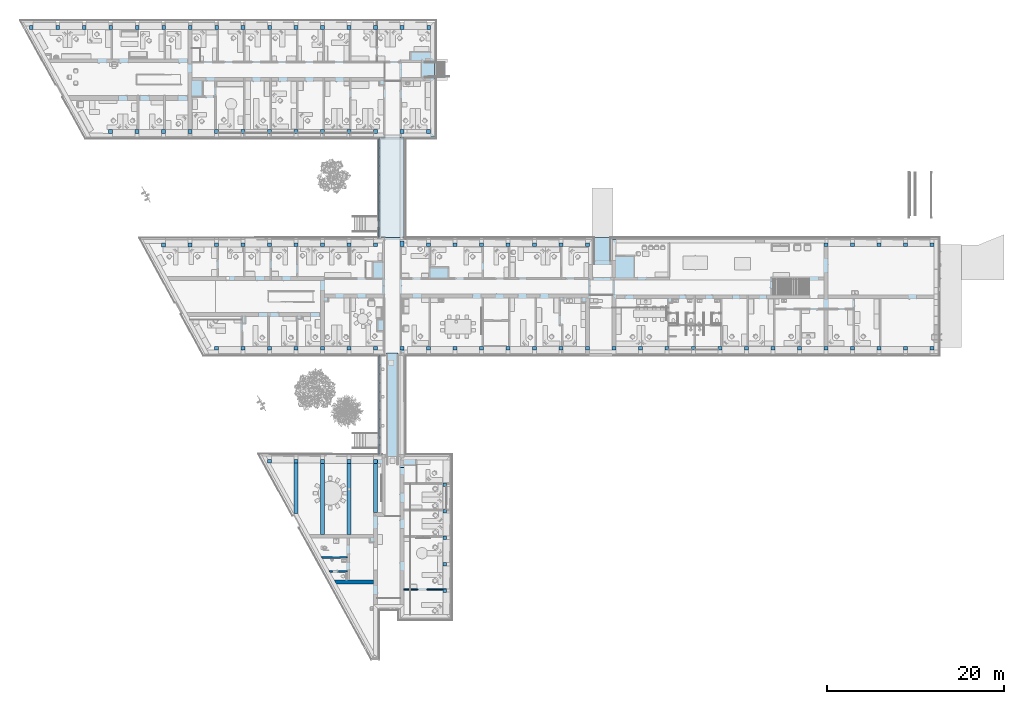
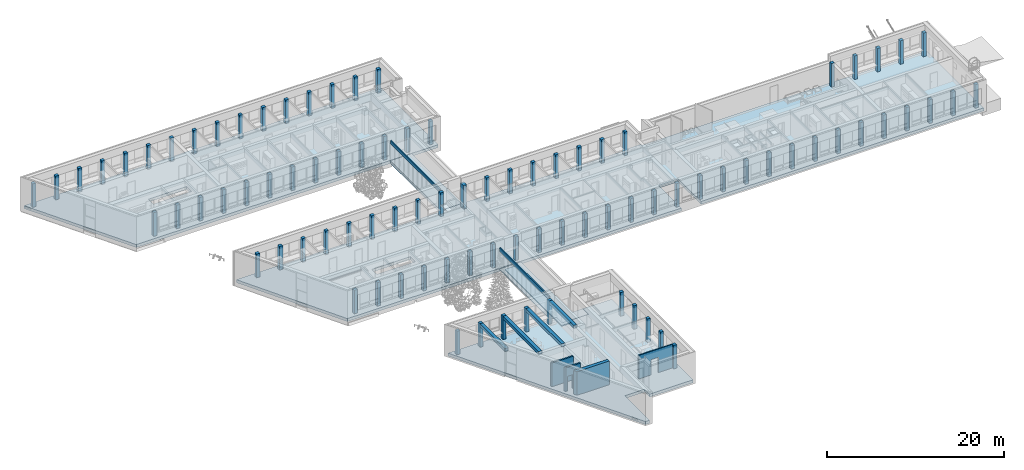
# One storey, part 1 of 194: 91 members, 6 slabs, 4 beams, 4 walls, 4 openings.
"""IFC2X3 building model written with IfcOpenShell, lengths in millimetres."""

from ifc_helpers import new_model, entity, si_unit, converted_unit, derived_unit, money_unit, direction, frame, frame_2d, origin_with_axes, origin_2d_with_axis, place, context, subcontext, project, spatial, polyline, rectangle, outline, extrude, clip, halfspace, material, layer, layer_set, layer_usage, type_object, element, save


model = new_model("IFC2X3")

# Units and contexts
model_context = context("Model", 3, precision=1e-05, world=origin_with_axes(), true_north=direction((0.0, 1.0)))
body_context = subcontext(model_context, "Body", "Model", "MODEL_VIEW")
ifc_project = project(units=[si_unit("LENGTHUNIT", "METRE", prefix="MILLI"), si_unit("AREAUNIT", "SQUARE_METRE"), si_unit("VOLUMEUNIT", "CUBIC_METRE"), converted_unit("PLANEANGLEUNIT", "DEGREE", entity("IfcPlaneAngleMeasure", 0.0174532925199), si_unit("PLANEANGLEUNIT", "RADIAN"), dimensions=[0, 0, 0, 0, 0, 0, 0]), si_unit("SOLIDANGLEUNIT", "STERADIAN"), money_unit("EUR"), converted_unit("TIMEUNIT", "Year", entity("IfcTimeMeasure", 31556926.0), si_unit("TIMEUNIT", "SECOND"), dimensions=[0, 0, 1, 0, 0, 0, 0]), si_unit("MASSUNIT", "GRAM", prefix="KILO"), si_unit("THERMODYNAMICTEMPERATUREUNIT", "DEGREE_CELSIUS"), si_unit("LUMINOUSINTENSITYUNIT", "LUMEN"), si_unit("ENERGYUNIT", "JOULE", prefix="MEGA"), derived_unit("THERMALCONDUCTANCEUNIT", [(si_unit("POWERUNIT", "WATT"), 1), (si_unit("LENGTHUNIT", "METRE"), -1), (si_unit("THERMODYNAMICTEMPERATUREUNIT", "KELVIN"), -1)]), derived_unit("SPECIFICHEATCAPACITYUNIT", [(si_unit("ENERGYUNIT", "JOULE"), 1), (si_unit("MASSUNIT", "GRAM", prefix="KILO"), -1), (si_unit("THERMODYNAMICTEMPERATUREUNIT", "KELVIN"), -1)]), derived_unit("MASSDENSITYUNIT", [(si_unit("MASSUNIT", "GRAM", prefix="KILO"), 1), (si_unit("VOLUMEUNIT", "CUBIC_METRE"), -1)])], contexts=[model_context])

# Site, building, storey
site_placement = place(None, origin_with_axes())
site = spatial("IfcSite", under=ifc_project, at=site_placement, Name="Site", CompositionType="ELEMENT")
building_placement = place(site_placement, origin_with_axes())
building = spatial("IfcBuilding", under=site, at=building_placement, Name="Building", CompositionType="ELEMENT")
storey_placement = place(building_placement, frame((0.0, 0.0, 3000.0), z_axis=(0.0, 0.0, 1.0), x_axis=(1.0, 0.0, 0.0)))
storey = spatial("IfcBuildingStorey", under=building, at=storey_placement, Name="2 KORRUS", CompositionType="ELEMENT", Elevation=3000.0)

# Members
ifc_material_1 = material(Name="Kivi - Ol.Olev Konstruktsioon")
member_type_1 = type_object("IfcMemberType", Name="ol.ol postid", PredefinedType="NOTDEFINED")
member_1_placement = place(storey_placement, frame((12951.7903616, 71296.7330816, 0.0), z_axis=(0.0, 0.0, 1.0), x_axis=(1.0, 0.0, 0.0)))
element("IfcMember", 1, at=member_1_placement, inside=storey, type_object=member_type_1, material=ifc_material_1, Name="Kivi - Ol.Olev Konstruktsioon", context=body_context, shape_type="SweptSolid", body=[
    extrude(rectangle(XDim=420.0, YDim=420.0, at=origin_2d_with_axis()), origin_with_axes(), (0.0, 0.0, 1.0), 3250.0),
])
member_2_placement = place(storey_placement, frame((39944.3292711, 46796.4699647, 0.0), z_axis=(0.0, 0.0, 1.0), x_axis=(1.0, 0.0, 0.0)))
element("IfcMember", 2, at=member_2_placement, inside=storey, type_object=member_type_1, material=ifc_material_1, Name="Kivi - Ol.Olev Konstruktsioon", context=body_context, shape_type="SweptSolid", body=[
    extrude(rectangle(XDim=420.0, YDim=650.0, at=origin_2d_with_axis()), origin_with_axes(), (0.0, 0.0, 1.0), 3250.0),
])
for number, where, z_axis, x_axis in (
    (3, (44776.9850381, 19530.1440087, 0.0), (0.0, 0.0, 1.0), (1.0, 0.0, 0.0)),
    (4, (44775.3183992, 16530.1444716, 0.0), (0.0, 0.0, 1.0), (1.0, 0.0, 0.0)),
    (5, (44770.3184828, 7530.14586044, 0.0), (0.0, 0.0, 1.0), (1.0, 0.0, 0.0)),
    (6, (15944.3038311, 59525.1231357, 0.0), (0.0, 0.0, 1.0), (1.0, 0.0, 0.0)),
    (7, (44773.6517604, 13530.1449345, 0.0), (0.0, 0.0, 1.0), (1.0, 0.0, 0.0)),
    (8, (44771.9851216, 10530.1453975, 0.0), (0.0, 0.0, 1.0), (1.0, 0.0, 0.0)),
    (9, (39944.3292711, 34971.6242698, 0.0), (0.0, 0.0, 1.0), (1.0, 0.0, 0.0)),
    (10, (87949.0655842, 46681.7424563, 0.0), (0.0, 0.0, 1.0), (1.0, 0.0, 0.0)),
    (11, (-2049.17894992, 71295.3928576, 0.0), (0.0, 0.0, 1.0), (1.0, 0.0, 0.0)),
    (12, (950.472883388, 71295.4138396, 0.0), (0.0, 0.0, 1.0), (1.0, 0.0, 0.0)),
    (13, (3950.5667174, 71297.439843, 0.0), (0.0, 0.0, 1.0), (1.0, 0.0, 0.0)),
    (14, (6952.1108763, 71297.439843, 0.0), (0.0, 0.0, 1.0), (1.0, 0.0, 0.0)),
    (15, (9951.94827156, 71299.439721, 0.0), (0.0, 0.0, 1.0), (1.0, 0.0, 0.0)),
    (16, (15951.8667269, 71298.3482713, 0.0), (0.0, 0.0, 1.0), (1.0, 0.0, 0.0)),
    (17, (18951.6522749, 71298.8316168, 0.0), (0.0, 0.0, 1.0), (1.0, 0.0, 0.0)),
    (18, (21950.5170575, 71298.2638514, 0.0), (0.0, 0.0, 1.0), (1.0, 0.0, 0.0)),
    (19, (24951.646881, 71298.9448321, 0.0), (0.0, 0.0, 1.0), (1.0, 0.0, 0.0)),
    (20, (27950.1478384, 71302.3731882, 0.0), (0.0, 0.0, 1.0), (1.0, 0.0, 0.0)),
    (21, (30950.1503027, 71302.3731882, 0.0), (0.0, 0.0, 1.0), (1.0, 0.0, 0.0)),
    (22, (33950.0692407, 71302.3731882, 0.0), (0.0, 0.0, 1.0), (1.0, 0.0, 0.0)),
    (23, (36949.9880696, 71302.3731882, 0.0), (0.0, 0.0, 1.0), (1.0, 0.0, 0.0)),
    (24, (39950.7614186, 71302.3733161, 0.0), (0.0, 0.0, 1.0), (1.0, 0.0, 0.0)),
    (25, (42953.1732824, 71302.373319, 0.0), (0.0, 0.0, 1.0), (1.0, 0.0, 0.0)),
    (26, (6943.96611202, 59525.1231357, 0.0), (0.0, 0.0, 1.0), (1.0, 0.0, 0.0)),
    (27, (9944.30400259, 59525.1231357, 0.0), (0.0, 0.0, 1.0), (1.0, 0.0, 0.0)),
    (28, (12944.6418932, 59525.1231357, 0.0), (0.0, 0.0, 1.0), (1.0, 0.0, 0.0)),
    (29, (18944.3034197, 59526.6941374, 0.0), (0.0, 0.0, 1.0), (1.0, 0.0, 0.0)),
    (30, (21944.3030084, 59528.2651392, 0.0), (0.0, 0.0, 1.0), (1.0, 0.0, 0.0)),
    (31, (24944.302597, 59527.6812213, 0.0), (0.0, 0.0, 1.0), (1.0, 0.0, 0.0)),
    (32, (27944.3021857, 59528.1046502, 0.0), (0.0, 0.0, 1.0), (1.0, 0.0, 0.0)),
    (33, (30944.3017744, 59528.468799, 0.0), (0.0, 0.0, 1.0), (1.0, 0.0, 0.0)),
    (34, (36944.3009517, 59529.3156565, 0.0), (0.0, 0.0, 1.0), (1.0, 0.0, 0.0)),
    (35, (39943.2475145, 59529.3156565, 0.0), (0.0, 0.0, 1.0), (1.0, 0.0, 0.0)),
    (36, (42944.3292711, 59529.3156565, 0.0), (0.0, 0.0, 1.0), (1.0, 0.0, 0.0)),
    (37, (36944.3010178, 46699.9747517, 0.0), (0.0, 0.0, 1.0), (1.0, 0.0, 0.0)),
    (38, (33943.7929122, 46695.1601266, 0.0), (0.0, 0.0, 1.0), (1.0, 0.0, 0.0)),
    (39, (30943.8006358, 46690.3463291, 0.0), (0.0, 0.0, 1.0), (1.0, 0.0, 0.0)),
    (40, (27944.3293372, 46685.5347581, 0.0), (0.0, 0.0, 1.0), (1.0, 0.0, 0.0)),
    (41, (24944.3293372, 46682.325893, 0.0), (0.0, 0.0, 1.0), (1.0, 0.0, 0.0)),
    (42, (21944.3293372, 46682.325893, 0.0), (0.0, 0.0, 1.0), (1.0, 0.0, 0.0)),
    (43, (18944.3293372, 46682.325893, 0.0), (0.0, 0.0, 1.0), (1.0, 0.0, 0.0)),
    (44, (15944.3292711, 46662.325893, 0.0), (0.0, 0.0, 1.0), (1.0, 0.0, 0.0)),
    (45, (12944.3292711, 46662.325893, 0.0), (0.0, 0.0, 1.0), (1.0, 0.0, 0.0)),
    (46, (42944.3292711, 46681.4699647, 0.0), (0.0, 0.0, 1.0), (1.0, 0.0, 0.0)),
    (47, (45944.3292711, 46681.4699647, 0.0), (0.0, 0.0, 1.0), (1.0, 0.0, 0.0)),
    (48, (48944.3292711, 46681.4699647, 0.0), (0.0, 0.0, 1.0), (1.0, 0.0, 0.0)),
    (49, (51944.3292711, 46681.4699647, 0.0), (0.0, 0.0, 1.0), (1.0, 0.0, 0.0)),
    (50, (54944.3292711, 46681.4699647, 0.0), (0.0, 0.0, 1.0), (1.0, 0.0, 0.0)),
    (51, (57944.3292711, 46681.4699647, 0.0), (0.0, 0.0, 1.0), (1.0, 0.0, 0.0)),
    (52, (60944.3292711, 46681.4699647, 0.0), (0.0, 0.0, 1.0), (1.0, 0.0, 0.0)),
    (53, (90947.3527847, 46681.7424563, 0.0), (0.0, 0.0, 1.0), (1.0, 0.0, 0.0)),
    (54, (93947.3527847, 46681.7424563, 0.0), (0.0, 0.0, 1.0), (1.0, 0.0, 0.0)),
    (55, (96947.3527847, 46681.7424563, 0.0), (0.0, 0.0, 1.0), (1.0, 0.0, 0.0)),
    (56, (99947.3527847, 46681.7424563, 0.0), (0.0, 0.0, 1.0), (1.0, 0.0, 0.0)),
    (57, (42945.1743177, 34971.6242698, 0.0), (0.0, 0.0, 1.0), (1.0, 0.0, 0.0)),
    (58, (45945.1743177, 34971.6242698, 0.0), (0.0, 0.0, 1.0), (1.0, 0.0, 0.0)),
    (59, (48945.1743177, 34971.6242698, 0.0), (0.0, 0.0, 1.0), (1.0, 0.0, 0.0)),
    (60, (51945.1743177, 34971.6242698, 0.0), (0.0, 0.0, 1.0), (1.0, 0.0, 0.0)),
    (61, (54945.1743177, 34971.6242698, 0.0), (0.0, 0.0, 1.0), (1.0, 0.0, 0.0)),
    (62, (57945.1743177, 34971.6242698, 0.0), (0.0, 0.0, 1.0), (1.0, 0.0, 0.0)),
    (63, (60945.1743177, 34971.6242698, 0.0), (0.0, 0.0, 1.0), (1.0, 0.0, 0.0)),
    (64, (63947.3527847, 34971.6242698, 0.0), (0.0, 0.0, 1.0), (1.0, 0.0, 0.0)),
    (65, (66947.3527847, 34971.6242698, 0.0), (0.0, 0.0, 1.0), (1.0, 0.0, 0.0)),
    (66, (69947.3527847, 34971.6242698, 0.0), (0.0, 0.0, 1.0), (1.0, 0.0, 0.0)),
    (67, (72947.3527847, 34971.6242698, 0.0), (0.0, 0.0, 1.0), (1.0, 0.0, 0.0)),
    (68, (75947.3527847, 34971.6242698, 0.0), (0.0, 0.0, 1.0), (1.0, 0.0, 0.0)),
    (69, (78947.3527847, 34971.6242698, 0.0), (0.0, 0.0, 1.0), (1.0, 0.0, 0.0)),
    (70, (81947.3527847, 34971.6242698, 0.0), (0.0, 0.0, 1.0), (1.0, 0.0, 0.0)),
    (71, (84947.3527847, 34971.6242698, 0.0), (0.0, 0.0, 1.0), (1.0, 0.0, 0.0)),
    (72, (87947.3527847, 34971.6242698, 0.0), (0.0, 0.0, 1.0), (1.0, 0.0, 0.0)),
    (73, (90947.3527847, 34971.6242698, 0.0), (0.0, 0.0, 1.0), (1.0, 0.0, 0.0)),
    (74, (93947.3527847, 34971.6242698, 0.0), (0.0, 0.0, 1.0), (1.0, 0.0, 0.0)),
    (75, (96947.3527847, 34971.6242698, 0.0), (0.0, 0.0, 1.0), (1.0, 0.0, 0.0)),
    (76, (99947.3527847, 34971.6242698, 0.0), (0.0, 0.0, 1.0), (1.0, 0.0, 0.0)),
    (77, (24944.3752691, 22185.0168988, 0.0), (0.0, 0.0, 1.0), (1.0, 0.0, 0.0)),
    (78, (33945.1743177, 34971.6242698, 0.0), (0.0, 0.0, 1.0), (1.0, 0.0, 0.0)),
    (79, (30945.1743177, 34971.6242698, 0.0), (0.0, 0.0, 1.0), (1.0, 0.0, 0.0)),
    (80, (27945.1743177, 34971.6242698, 0.0), (0.0, 0.0, 1.0), (1.0, 0.0, 0.0)),
    (81, (24945.1743177, 34971.6242698, 0.0), (0.0, 0.0, 1.0), (1.0, 0.0, 0.0)),
    (82, (21945.1743177, 34971.6242698, 0.0), (0.0, 0.0, 1.0), (1.0, 0.0, 0.0)),
    (83, (18945.1743177, 34971.6242698, 0.0), (0.0, 0.0, 1.0), (1.0, 0.0, 0.0)),
    (84, (36944.3292711, 34971.6242698, 0.0), (0.0, 0.0, 1.0), (1.0, 0.0, 0.0)),
    (85, (36944.3292711, 22151.7911393, 0.0), (0.0, 0.0, 1.0), (1.0, 0.0, 0.0)),
    (86, (33944.3407706, 22160.0975792, 0.0), (0.0, 0.0, 1.0), (1.0, 0.0, 0.0)),
    (87, (30944.3522701, 22168.404019, 0.0), (0.0, 0.0, 1.0), (1.0, 0.0, 0.0)),
    (88, (27944.3637696, 22176.7104589, 0.0), (0.0, 0.0, 1.0), (1.0, 0.0, 0.0)),
    (89, (33944.5581523, 59529.3156565, 0.0), (0.0, 0.0, 1.0), (1.0, 0.0, 0.0)),
):
    element("IfcMember", number, at=place(storey_placement, frame(where, z_axis=z_axis, x_axis=x_axis)), inside=storey, type_object=member_type_1, material=ifc_material_1, Name="Kivi - Ol.Olev Konstruktsioon", context=body_context, shape_type="SweptSolid", body=[
        extrude(rectangle(XDim=420.0, YDim=420.0, at=origin_2d_with_axis()), origin_with_axes(), (0.0, 0.0, 1.0), 3250.0),
    ])
ifc_material_2 = material(Name="Kivi -Ol.Olev Konstruktsioon")
member_type_2 = type_object("IfcMemberType", Name="VS4", PredefinedType="NOTDEFINED")
member_3_placement = place(storey_placement, frame((37327.359024, 22991.226449, 2504.80724646), z_axis=(0.0, 0.0, 1.0), x_axis=(0.0, 1.0, 0.0)))
element("IfcMember", 90, at=member_3_placement, inside=storey, type_object=member_type_2, material=ifc_material_2, Name="ol.olev ss 150", context=body_context, shape_type="SweptSolid", body=[
    extrude(outline(polyline([(0.0, -150.0), (11179.2226508, -150.0), (11179.2226508, 0.0), (0.0, 0.0), (0.0, -150.0)])), origin_with_axes(), (0.0, 0.0, 1.0), 491.060053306),
])
member_4_placement = place(storey_placement, frame((37224.7479542, 47545.2545454, 2550.0), z_axis=(0.0, 0.0, 1.0), x_axis=(0.0, 1.0, 0.0)))
element("IfcMember", 91, at=member_4_placement, inside=storey, type_object=member_type_2, material=ifc_material_2, Name="ol.olev ss 150", context=body_context, shape_type="SweptSolid", body=[
    extrude(outline(polyline([(0.0, -150.0), (11124.6056396, -150.0), (11124.6056396, 0.0), (0.0, 0.0), (0.0, -150.0)])), origin_with_axes(), (0.0, 0.0, 1.0), 395.659432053),
])

# Beams
ifc_material_3 = material(Name="Betoon (1)")
beam_type = type_object("IfcBeamType", Name="Betoon olemas olev  tala", PredefinedType="NOTDEFINED")
beam_1_placement = place(storey_placement, frame((30944.6486879, 22363.3479121, 3250.0), z_axis=(0.0, 0.0, 1.0), x_axis=(-1.0, 0.0, 0.0)))
element("IfcBeam", 92, at=beam_1_placement, inside=storey, type_object=beam_type, material=ifc_material_3, Name="Betoon (1)", ObjectType="Betoon (1) 420 x 412", context=body_context, shape_type="Clipping", body=[
    clip(clip(extrude(rectangle(XDim=412.0, YDim=420.0, at=frame_2d((-206.0, 0.0), x_axis=(1.0, 0.0))), frame((0.0, 0.0, 0.0), z_axis=(0.0, 1.0, 0.0), x_axis=(0.0, 0.0, 1.0)), (0.0, 0.0, 1.0), 8459.36658169), halfspace(frame((0.0, 8459.36658169, 0.0), z_axis=(0.0, -1.0, 0.0), x_axis=(0.0, 0.0, -1.0)), True)), halfspace(frame((0.0, 0.0, 0.0), z_axis=(0.0, 1.0, 0.0), x_axis=(0.0, 0.0, 1.0)), True)),
])
beam_2_placement = place(storey_placement, frame((33944.3588721, 22350.6789821, 3250.0), z_axis=(0.0, 0.0, 1.0), x_axis=(-1.0, 0.0, 0.0)))
element("IfcBeam", 93, at=beam_2_placement, inside=storey, type_object=beam_type, material=ifc_material_3, Name="Betoon (1)", ObjectType="Betoon (1) 420 x 412", context=body_context, shape_type="Clipping", body=[
    clip(clip(extrude(rectangle(XDim=412.0, YDim=420.0, at=frame_2d((-206.0, 0.0), x_axis=(1.0, 0.0))), frame((0.0, 0.0, 0.0), z_axis=(0.0, 1.0, 0.0), x_axis=(0.0, 0.0, 1.0)), (0.0, 0.0, 1.0), 8446.69765166), halfspace(frame((0.0, 8446.69765166, 0.0), z_axis=(0.0, -1.0, 0.0), x_axis=(0.0, 0.0, -1.0)), True)), halfspace(frame((0.0, 0.0, 0.0), z_axis=(0.0, 1.0, 0.0), x_axis=(0.0, 0.0, 1.0)), True)),
])
beam_3_placement = place(storey_placement, frame((36947.574796, 22341.075771, 3250.0), z_axis=(0.0, 0.0, 1.0), x_axis=(-1.0, 0.0, 0.0)))
element("IfcBeam", 94, at=beam_3_placement, inside=storey, type_object=beam_type, material=ifc_material_3, Name="Betoon (1)", ObjectType="Betoon (1) 420 x 412", context=body_context, shape_type="Clipping", body=[
    clip(clip(extrude(rectangle(XDim=412.0, YDim=420.0, at=frame_2d((-206.0, 0.0), x_axis=(1.0, 0.0))), frame((0.0, 0.0, 0.0), z_axis=(0.0, 1.0, 0.0), x_axis=(0.0, 0.0, 1.0)), (0.0, 0.0, 1.0), 5973.74728379), halfspace(frame((0.0, 5973.74728379, 0.0), z_axis=(0.0, -1.0, 0.0), x_axis=(0.0, 0.0, -1.0)), True)), halfspace(frame((0.0, 0.0, 0.0), z_axis=(0.0, 1.0, 0.0), x_axis=(0.0, 0.0, 1.0)), True)),
])
beam_4_placement = place(storey_placement, frame((27944.5345921, 22366.7104589, 3250.0), z_axis=(0.0, 0.0, 1.0), x_axis=(-1.0, 0.0, 0.0)))
element("IfcBeam", 95, at=beam_4_placement, inside=storey, type_object=beam_type, material=ifc_material_3, Name="Betoon (1)", ObjectType="Betoon (1) 420 x 412", context=body_context, shape_type="Clipping", body=[
    clip(clip(extrude(rectangle(XDim=412.0, YDim=420.0, at=frame_2d((-206.0, 0.0), x_axis=(1.0, 0.0))), frame((0.0, 0.0, 0.0), z_axis=(0.0, 1.0, 0.0), x_axis=(0.0, 0.0, 1.0)), (0.0, 0.0, 1.0), 6069.41103063), halfspace(frame((0.0, 6069.41103063, 0.0), z_axis=(0.0, -1.0, 0.0), x_axis=(0.0, 0.0, -1.0)), True)), halfspace(frame((0.0, 0.0, 0.0), z_axis=(0.0, 1.0, 0.0), x_axis=(0.0, 0.0, 1.0)), True)),
])

# Slabs
ifc_material_4 = material(Name="Betoon - Ol.Olev konstruktsioon")
ifc_layer_1 = layer(ifc_material_4, 400.0, ventilated="UNKNOWN")
ifc_layer_set_1 = layer_set([ifc_layer_1], Name="Betoon - Ol.Olev konstruktsioon 400")
ifc_layer_usage_1 = layer_usage(ifc_layer_set_1, "AXIS3", "NEGATIVE", 400.0)
slab_type_1 = type_object("IfcSlabType", Name="SLA - 003", PredefinedType="FLOOR")
slab_1_placement = place(storey_placement, frame((38202.8565813, 22767.7433646, 0.0), z_axis=(0.0, 0.0, 1.0), x_axis=(1.0, 0.0, 0.0)))
element("IfcSlab", 96, at=slab_1_placement, inside=storey, type_object=slab_type_1, material=ifc_layer_usage_1, Name="Betoon - Ol.Olev konstruktsioon", PredefinedType="FLOOR", context=body_context, shape_type="SweptSolid", body=[
    extrude(outline(polyline([(0.0, 0.0), (-14163.9025306, 38.4414127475), (-1587.59392155, -22823.6499019), (-1035.90987656, -22823.6499019), (-1038.01094426, -17240.6408346), (1529.06327181, -17242.1665964), (1529.06327181, -18374.733879), (7183.71406628, -18377.7754677), (7193.91334032, -18.778313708), (3412.97343267, -9.26294995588), (3409.51422558, -1283.82256144), (-3.45920709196, -1274.55961148), (0.0, 0.0)])), frame((0.0, 0.0, -400.0), z_axis=(0.0, 0.0, 1.0), x_axis=(1.0, 0.0, 0.0)), (0.0, 0.0, 1.0), 400.0),
])
ifc_layer_usage_2 = layer_usage(ifc_layer_set_1, "AXIS3", "NEGATIVE", 400.0)
slab_2_placement = place(storey_placement, frame((37372.6468865, 58888.9085809, 0.0), z_axis=(0.0, 0.0, 1.0), x_axis=(1.0, 0.0, 0.0)))
element("IfcSlab", 97, at=slab_2_placement, inside=storey, type_object=slab_type_1, material=ifc_layer_usage_2, Name="Betoon - Ol.Olev konstruktsioon", PredefinedType="FLOOR", context=body_context, shape_type="SweptSolid", body=[
    extrude(outline(polyline([(0.0, 0.0), (1.39798638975, -11348.5803213), (2789.50572064, -11351.4478195), (2788.51799019, 0.412533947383), (0.0, 0.0)])), frame((0.0, 0.0, -400.0), z_axis=(0.0, 0.0, 1.0), x_axis=(1.0, 0.0, 0.0)), (0.0, 0.0, 1.0), 400.0),
])

# Slab, opening
ifc_layer_usage_3 = layer_usage(ifc_layer_set_1, "AXIS3", "NEGATIVE", 400.0)
slab_3_placement = place(storey_placement, frame((37931.7509464, 47321.222804, 0.0), z_axis=(0.0, 0.0, 1.0), x_axis=(1.0, 0.0, 0.0)))
slab_3 = element("IfcSlab", 98, at=slab_3_placement, inside=storey, type_object=slab_type_1, material=ifc_layer_usage_3, Name="Betoon - Ol.Olev konstruktsioon", PredefinedType="FLOOR", context=body_context, shape_type="SweptSolid", body=[
    extrude(outline(polyline([(0.0, 0.0), (-27368.2826417, -43.9152357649), (-20341.1322176, -12971.6158806), (-14.4899680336, -12987.6709433), (-14.4708921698, -12963.5197903), (2230.58208755, -12962.8568448), (2230.58636826, -12975.1862437), (23223.4233713, -12967.8976226), (23223.4233713, -7813.57924921), (25792.1282063, -7813.57924921), (25809.5138076, -12967.0992782), (62695.3813223, -12964.0241963), (62693.38878, -23.4164633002), (25571.2763804, -23.4164633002), (25571.2763804, 201.103096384), (23790.418897, 201.103096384), (23790.418897, -23.4164633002), (23711.5808334, -23.4164633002), (23711.5808334, 30.7037746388), (2230.4016607, 216.237957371), (-1.04290999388, 219.998609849), (0.0, 0.0)])), frame((0.0, 0.0, -400.0), z_axis=(0.0, 0.0, 1.0), x_axis=(1.0, 0.0, 0.0)), (0.0, 0.0, 1.0), 400.0),
])
opening_1_placement = place(slab_3_placement, origin_with_axes())
element("IfcOpeningElement", 99, at=opening_1_placement, cuts=slab_3, Name="Slab Opening", context=body_context, shape_type="SweptSolid", body=[
    extrude(outline(polyline([(-13090.6094993, -7070.4319114), (-8075.91827482, -7070.4319114), (-8075.91827482, -5948.65789173), (-13090.6094993, -5948.65789173), (-13090.6094993, -7070.4319114)])), frame((0.0, 0.0, -400.0), z_axis=(0.0, 0.0, 1.0), x_axis=(1.0, 0.0, 0.0)), (0.0, 0.0, 1.0), 400.0),
])

ifc_layer_usage_4 = layer_usage(ifc_layer_set_1, "AXIS3", "NEGATIVE", 400.0)
slab_type_2 = type_object("IfcSlabType", Name="VL-1", PredefinedType="FLOOR")
slab_4_placement = place(storey_placement, frame((43621.3141912, 71922.5424975, 0.0), z_axis=(0.0, 0.0, 1.0), x_axis=(1.0, 0.0, 0.0)))
slab_4 = element("IfcSlab", 100, at=slab_4_placement, inside=storey, type_object=slab_type_2, material=ifc_layer_usage_4, Name="Betoon - Ol.Olev konstruktsioon", PredefinedType="FLOOR", context=body_context, shape_type="SweptSolid", body=[
    extrude(outline(polyline([(0.0, 0.0), (-46557.8811765, -8.87977532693), (-39394.8978751, -13018.283763), (-0.297123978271, -13012.8397188), (0.0, 0.0)])), frame((0.0, 0.0, -400.0), z_axis=(0.0, 0.0, 1.0), x_axis=(1.0, 0.0, 0.0)), (0.0, 0.0, 1.0), 400.0),
])
opening_2_placement = place(slab_4_placement, origin_with_axes())
element("IfcOpeningElement", 101, at=opening_2_placement, cuts=slab_4, Name="Slab Opening", context=body_context, shape_type="SweptSolid", body=[
    extrude(outline(polyline([(-33734.6210783, -7058.29694117), (-28751.6063384, -7058.29694117), (-28751.6063384, -5951.05263353), (-33734.6210783, -5951.05263353), (-33734.6210783, -7058.29694117)])), frame((0.0, 0.0, -400.0), z_axis=(0.0, 0.0, 1.0), x_axis=(1.0, 0.0, 0.0)), (0.0, 0.0, 1.0), 400.0),
])

# Slabs
ifc_material_5 = material(Name="Kivi -  Uus Konstruktsioon")
ifc_layer_2 = layer(ifc_material_5, 80.0, ventilated="UNKNOWN")
ifc_layer_set_2 = layer_set([ifc_layer_2], Name="Kivi -  Uus Konstruktsioon   80")
ifc_layer_usage_5 = layer_usage(ifc_layer_set_2, "AXIS3", "NEGATIVE", 80.0)
slab_type_3 = type_object("IfcSlabType", Name="P-4", PredefinedType="FLOOR")
slab_5_placement = place(storey_placement, frame((37363.1483912, 22771.3664505, 0.0), z_axis=(0.0, 0.0, 1.0), x_axis=(1.0, 0.0, 0.0)))
element("IfcSlab", 102, at=slab_5_placement, inside=storey, type_object=slab_type_3, material=ifc_layer_usage_5, Name="Kivi -  Uus Konstruktsioon", PredefinedType="FLOOR", context=body_context, shape_type="SweptSolid", body=[
    extrude(outline(polyline([(0.0, 0.0), (839.708190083, -3.62308592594), (836.248982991, -1278.18269741), (4249.22241566, -1287.44564737), (4252.68162275, -12.8860358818), (2907.52457496, -9.23522445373), (2799.22174518, 11480.1361749), (4.04737536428, 11479.9076127), (0.0, 0.0)])), frame((0.0, 0.0, -80.0), z_axis=(0.0, 0.0, 1.0), x_axis=(1.0, 0.0, 0.0)), (0.0, 0.0, 1.0), 80.0),
])
ifc_layer_3 = layer(ifc_material_5, 150.0, ventilated="UNKNOWN")
ifc_layer_set_3 = layer_set([ifc_layer_3], Name="Kivi -  Uus Konstruktsioon   150")
ifc_layer_usage_6 = layer_usage(ifc_layer_set_3, "AXIS3", "NEGATIVE", 150.0)
slab_6_placement = place(storey_placement, frame((38202.8565813, 21639.6325183, -455.0), z_axis=(0.0, 0.0, 1.0), x_axis=(1.0, 0.0, 0.0)))
element("IfcSlab", 103, at=slab_6_placement, inside=storey, type_object=slab_type_3, material=ifc_layer_usage_6, Name="Kivi -  Uus Konstruktsioon", PredefinedType="FLOOR", context=body_context, shape_type="SweptSolid", body=[
    extrude(outline(polyline([(0.0, 0.0), (1305.21194609, 0.0), (1305.21194609, 12800.0), (0.0, 12800.0), (0.0, 0.0)])), frame((0.0, 0.0, -150.0), z_axis=(0.0, 0.0, 1.0), x_axis=(1.0, 0.0, 0.0)), (0.0, 0.0, 1.0), 150.0),
])

# Wall
ifc_layer_4 = layer(ifc_material_2, 420.0, ventilated="UNKNOWN")
ifc_layer_set_4 = layer_set([ifc_layer_4], Name="ol.olev ss 420")
ifc_layer_usage_7 = layer_usage(ifc_layer_set_4, "AXIS2", "POSITIVE", 0.0)
wall_type = type_object("IfcWallType", Name="SW - 022", PredefinedType="NOTDEFINED")
wall_1_placement = place(storey_placement, frame((32017.5522683, 8303.52879595, 0.0), z_axis=(0.0, 0.0, 1.0), x_axis=(1.0, 0.0, 0.0)))
element("IfcWallStandardCase", 104, at=wall_1_placement, inside=storey, type_object=wall_type, material=ifc_layer_usage_7, Name="ol.olev ss 420", context=body_context, shape_type="SweptSolid", body=[
    extrude(outline(polyline([(490.747144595, 0.0), (4707.33104062, 0.0), (4707.33104062, 420.0), (259.746091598, 420.0), (490.747144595, 0.0)])), origin_with_axes(), (0.0, 0.0, 1.0), 3250.0),
])

# Wall, opening
ifc_layer_5 = layer(ifc_material_2, 150.0, ventilated="UNKNOWN")
ifc_layer_set_5 = layer_set([ifc_layer_5], Name="ol.olev ss 150")
ifc_layer_usage_8 = layer_usage(ifc_layer_set_5, "AXIS2", "POSITIVE", -150.0)
wall_2_placement = place(storey_placement, frame((39738.0685274, 7740.14586044, 0.0), z_axis=(0.0, 0.0, 1.0), x_axis=(1.0, 0.0, 0.0)))
wall_2 = element("IfcWallStandardCase", 105, at=wall_2_placement, inside=storey, type_object=wall_type, material=ifc_layer_usage_8, Name="ol.olev ss 150", context=body_context, shape_type="SweptSolid", body=[
    extrude(outline(polyline([(420.0, -150.0), (5222.39994979, -150.0), (5222.48328174, 0.0), (420.0, 0.0), (420.0, -150.0)])), origin_with_axes(), (0.0, 0.0, 1.0), 3250.0),
])
opening_3_placement = place(wall_2_placement, frame((2487.1190222, 0.0, 0.0), z_axis=(0.0, 0.0, 1.0), x_axis=(1.0, 0.0, 0.0)))
element("IfcOpeningElement", 106, at=opening_3_placement, cuts=wall_2, Name="Siseuks * Door 22", context=body_context, shape_type="SweptSolid", body=[
    extrude(rectangle(XDim=1000.0, YDim=2100.0, at=origin_2d_with_axis()), frame((0.0, -150.0, 1050.0), z_axis=(0.0, -1.0, 0.0), x_axis=(-1.0, 0.0, 0.0)), (0.0, 0.0, -1.0), 450.0),
    extrude(rectangle(XDim=1074.0, YDim=2137.0, at=origin_2d_with_axis()), frame((0.0, -150.0, 1068.5), z_axis=(0.0, -1.0, 0.0), x_axis=(-1.0, 0.0, 0.0)), (0.0, 0.0, 1.0), 150.0),
    extrude(rectangle(XDim=1074.0, YDim=2137.0, at=origin_2d_with_axis()), frame((0.0, 0.0, 1068.5), z_axis=(0.0, 1.0, 0.0), x_axis=(-1.0, 0.0, 0.0)), (0.0, 0.0, 1.0), 150.0),
])

ifc_layer_6 = layer(ifc_material_2, 200.0, ventilated="UNKNOWN")
ifc_layer_set_6 = layer_set([ifc_layer_6], Name="ol.olev ss 200")
ifc_layer_usage_9 = layer_usage(ifc_layer_set_6, "AXIS2", "POSITIVE", -200.0)
wall_3_placement = place(storey_placement, frame((33717.5084509, 9596.11004408, 0.0), z_axis=(0.0, 0.0, 1.0), x_axis=(-0.999998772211, 0.00156702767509, 0.0)))
wall_3 = element("IfcWallStandardCase", 107, at=wall_3_placement, inside=storey, type_object=wall_type, material=ifc_layer_usage_9, Name="ol.olev ss 200", context=body_context, shape_type="SweptSolid", body=[
    extrude(outline(polyline([(0.313405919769, -200.0), (2032.19972244, -199.999999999), (1921.79065681, 9.09494701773e-10), (0.0, 0.0), (0.313405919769, -200.0)])), origin_with_axes(), (0.0, 0.0, 1.0), 3250.0),
])
opening_4_placement = place(wall_3_placement, frame((1324.06475725, 0.0, 0.0), z_axis=(0.0, 0.0, 1.0), x_axis=(1.0, 0.0, 0.0)))
element("IfcOpeningElement", 108, at=opening_4_placement, cuts=wall_3, Name="Siseuks * Door 22", context=body_context, shape_type="SweptSolid", body=[
    extrude(rectangle(XDim=700.0, YDim=2000.0, at=origin_2d_with_axis()), frame((-1.13686837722e-10, 200.000000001, 1000.0), z_axis=(0.0, 1.0, 0.0), x_axis=(1.0, 0.0, 0.0)), (0.0, 0.0, -1.0), 600.000000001),
    extrude(rectangle(XDim=774.0, YDim=2037.0, at=origin_2d_with_axis()), frame((0.0, 0.0, 1018.5), z_axis=(0.0, 1.0, 0.0), x_axis=(1.0, 0.0, 0.0)), (0.0, 0.0, 1.0), 200.000000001),
    extrude(rectangle(XDim=774.0, YDim=2037.0, at=origin_2d_with_axis()), frame((-1.13686837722e-10, -200.000000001, 1018.5), z_axis=(0.0, -1.0, 0.0), x_axis=(1.0, 0.0, 0.0)), (0.0, 0.0, 1.0), 200.000000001),
])

# Wall
ifc_layer_usage_10 = layer_usage(ifc_layer_set_6, "AXIS2", "POSITIVE", -200.0)
wall_4_placement = place(storey_placement, frame((33717.5084508, 11184.2182637, 0.0), z_axis=(0.0, 0.0, 1.0), x_axis=(-1.0, 0.0, 0.0)))
element("IfcWallStandardCase", 109, at=wall_4_placement, inside=storey, type_object=wall_type, material=ifc_layer_usage_10, Name="ol.olev ss 200", context=body_context, shape_type="SweptSolid", body=[
    extrude(outline(polyline([(-2.91038304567e-08, -200.0), (2903.59596897, -200.0), (2793.59546755, 0.0), (-2.91038304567e-08, 0.0), (-2.91038304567e-08, -200.0)])), origin_with_axes(), (0.0, 0.0, 1.0), 3250.0),
])

save(model, "model.ifc")
